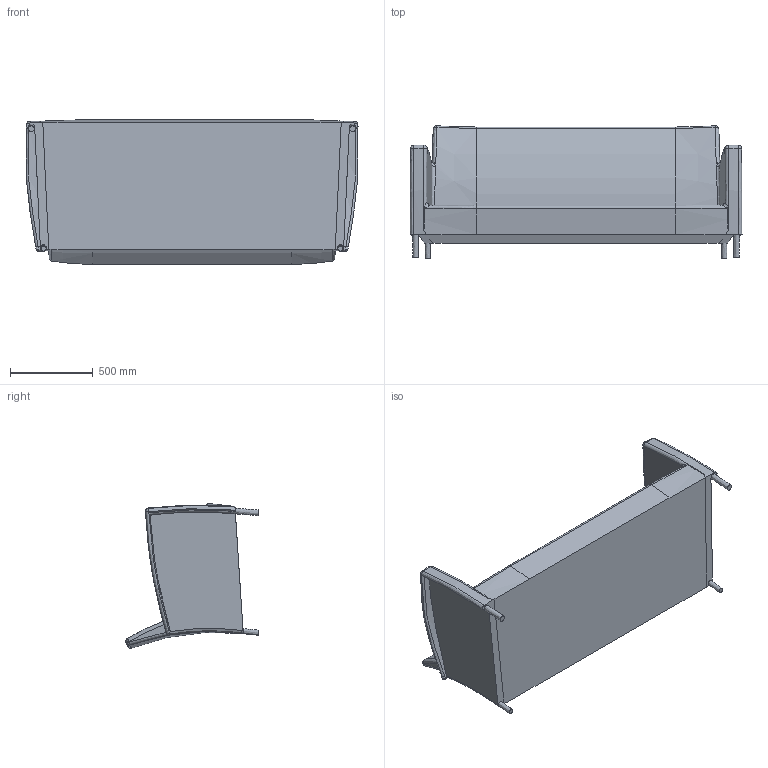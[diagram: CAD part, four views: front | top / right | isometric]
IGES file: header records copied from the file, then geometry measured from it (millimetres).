
Global section: file name: VincentSheppard_DovileLoungeSofa3S; native system: unknown; preprocessor: unknown; author: ict@vincentsheppard.com; organization: unknown; date: 20180516.140223; units: millimetre
Bounding box: 2000.16 x 797.81 x 871.81 mm (x, y, z)
Volume: 369067271.2 mm3; surface area: 6815657.9 mm2
Topology: 1 solids, 1 shells, 120 faces, 312 edges, 196 vertices
Faces by surface type: bspline 120
